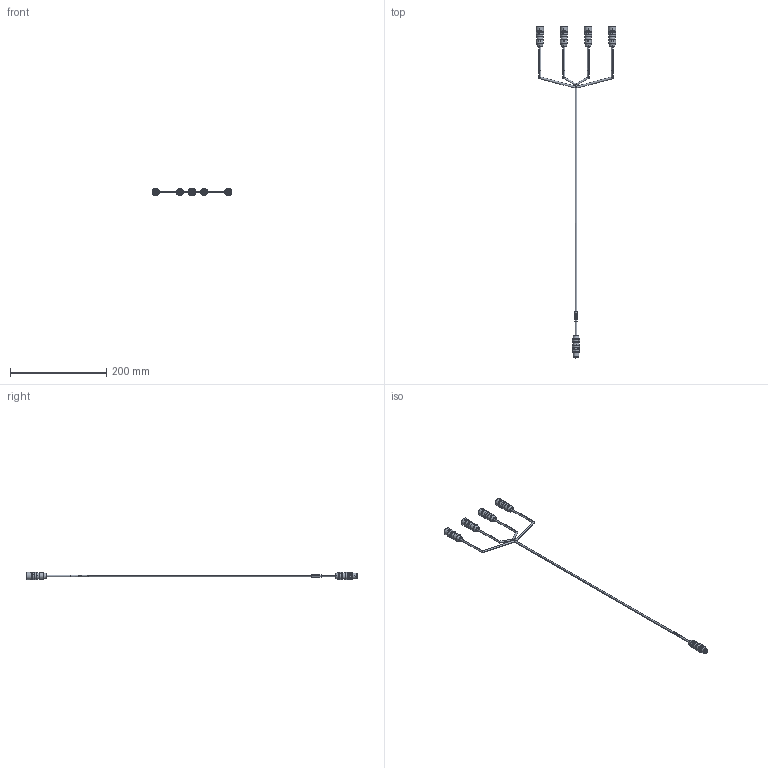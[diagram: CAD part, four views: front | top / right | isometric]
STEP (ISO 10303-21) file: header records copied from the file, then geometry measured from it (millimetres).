
FILE_DESCRIPTION (( 'STEP AP203' ), '1' );
FILE_NAME ('M12-#M-M12-4W(IMCB-4W-M12-#M-M12).STEP', '2024-04-25T10:38:40', ( '' ), ( '' ), 'SwSTEP 2.0', 'SolidWorks 2023', '' );
FILE_SCHEMA (( 'CONFIG_CONTROL_DESIGN' ));
Products named in the file (1): M12-#M-M12-4W(IMCB-4W-M12-#M-M12)
Bounding box: 165.3 x 689.2 x 15.3 mm (x, y, z)
Volume: 42352.3 mm3; surface area: 29476.2 mm2
Topology: 1 solids, 1 shells, 1052 faces, 2726 edges, 1767 vertices
Faces by surface type: cylinder 431, plane 420, cone 114, bspline 69, torus 18
Entity records: 39998 total; most frequent: CARTESIAN_POINT 14092, ORIENTED_EDGE 5452, DIRECTION 5410, EDGE_CURVE 2726, AXIS2_PLACEMENT_3D 2026, VERTEX_POINT 1767, LINE 1358, VECTOR 1358
